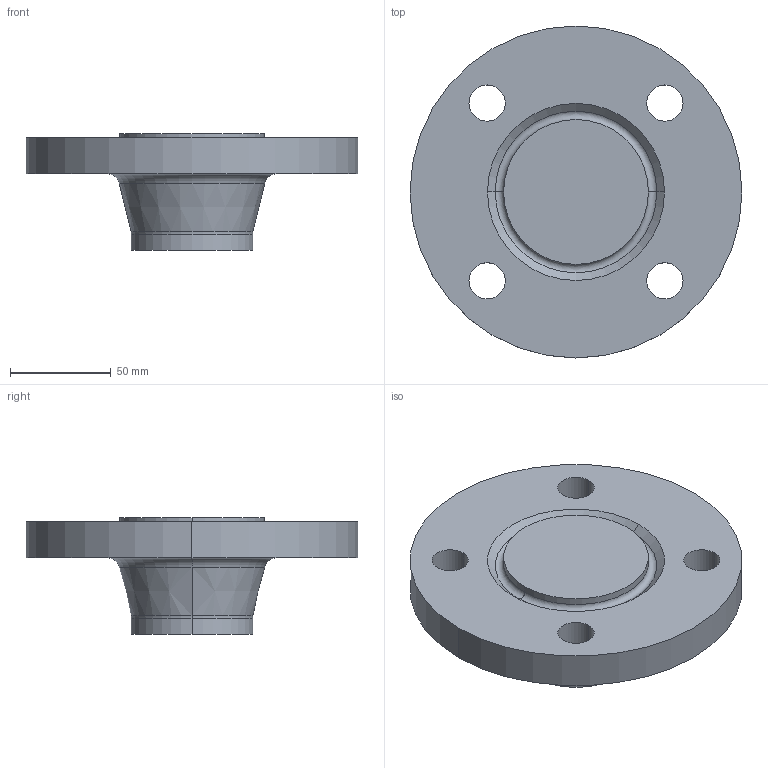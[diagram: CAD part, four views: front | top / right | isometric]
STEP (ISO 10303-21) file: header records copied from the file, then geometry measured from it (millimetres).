
FILE_DESCRIPTION (( 'STEP AP214' ), '1' );
FILE_NAME ('PN40 DN50 Type 21(ii) - Type H Face.STEP', '2018-12-30T03:17:44', ( '' ), ( '' ), 'SwSTEP 2.0', 'SolidWorks 2019', '' );
FILE_SCHEMA (( 'AUTOMOTIVE_DESIGN' ));
Length unit declared in the file: millimetre
Products named in the file (1): PN40 DN50 Type 21(ii) - Type H Face
Bounding box: 165 x 165 x 58 mm (x, y, z)
Volume: 500338.4 mm3; surface area: 61820.6 mm2
Topology: 1 solids, 1 shells, 28 faces, 62 edges, 38 vertices
Faces by surface type: cylinder 14, torus 6, cone 4, plane 4
Entity records: 840 total; most frequent: DIRECTION 164, CARTESIAN_POINT 129, ORIENTED_EDGE 124, AXIS2_PLACEMENT_3D 73, EDGE_CURVE 62, CIRCLE 44, VERTEX_POINT 38, EDGE_LOOP 38
